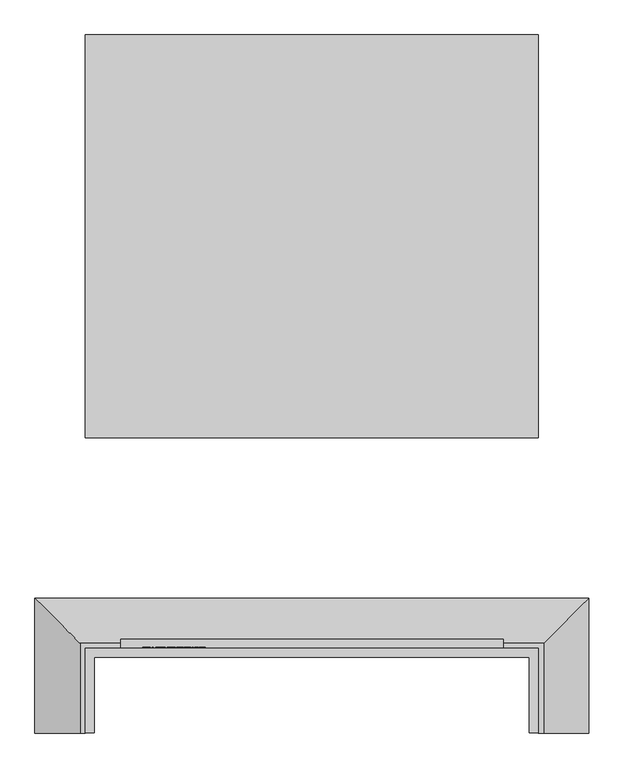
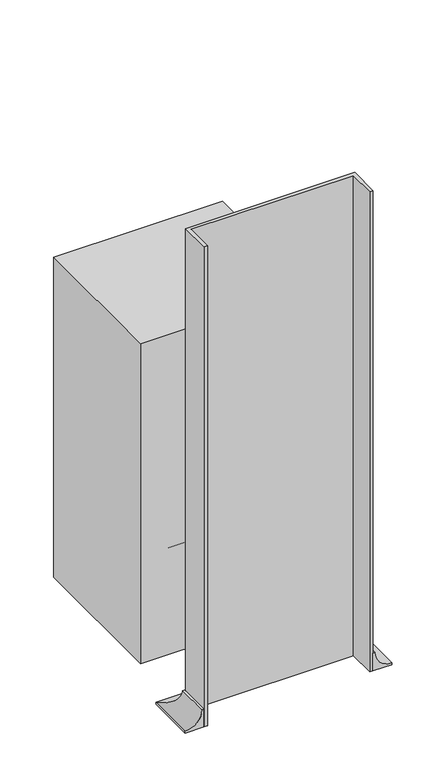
"""IFC4 building model written with IfcOpenShell, lengths in millimetres: furniture geometry, BIMHealth-Washstation-LOD2A-v1 : BIMHealth-Washstation-LOD2A-v1."""

import ifcopenshell
import ifcopenshell.guid

model = None  # the IFC model being written
_history = None  # IfcOwnerHistory: only IFC2X3 demands one
_inside = {}  # id of a spatial element -> (the spatial element, [elements in it])
_under = {}  # id of a project, library or spatial element -> (it, [spatial elements below it])
_declared = {}  # id of a project -> (the project, [libraries it declares])
_typed = {}  # id of a type object -> (the type object, [elements of that type])
_made_of = {}  # id of a material, layer set ... -> (it, [elements and type objects made of it])


def new_model(schema):
    """Start an empty IFC model of exactly this schema.

    Asked for "IFC4X3", IfcOpenShell would pick the latest addendum, in which some entities
    have other attributes; the version numbers below select the first issue.
    IFC2X3 requires an IfcOwnerHistory on every rooted entity: one is made here for all.
    """
    global model, _history
    if schema == "IFC4X3":
        model = ifcopenshell.file(schema_version=(4, 3, 0, 0))
    else:
        model = ifcopenshell.file(schema=schema)
    _inside.clear()
    _under.clear()
    _declared.clear()
    _typed.clear()
    _made_of.clear()
    _history = None
    if model.schema == "IFC2X3":
        org = make("IfcOrganization", Name="unknown")
        user = make(
            "IfcPersonAndOrganization",
            ThePerson=make("IfcPerson", FamilyName="unknown"),
            TheOrganization=org,
        )
        app = make(
            "IfcApplication",
            ApplicationDeveloper=org,
            Version="unknown",
            ApplicationFullName="unknown",
            ApplicationIdentifier="unknown",
        )
        _history = make(
            "IfcOwnerHistory",
            OwningUser=user,
            OwningApplication=app,
            ChangeAction="ADDED",
            CreationDate=0,
        )
    return model


def make(cls, **values):
    """One entity of the class cls with the attributes given. An attribute that is None is left unset."""
    return model.create_entity(
        cls, **{name: value for name, value in values.items() if value is not None}
    )


def rooted(cls, **values):
    """An entity with a GlobalId (a new one), such as an element, a storey or a relation."""
    return make(cls, GlobalId=ifcopenshell.guid.new(), OwnerHistory=_history, **values)


def si_unit(unit_type, name, prefix=None):
    """IfcSIUnit, for example si_unit("LENGTHUNIT", "METRE", prefix="MILLI")."""
    return make("IfcSIUnit", UnitType=unit_type, Prefix=prefix, Name=name)


def assignment(units):
    """IfcUnitAssignment: the units of a project."""
    return None if units is None else make("IfcUnitAssignment", Units=units)


def point(xyz):
    """IfcCartesianPoint."""
    return None if xyz is None else make("IfcCartesianPoint", Coordinates=xyz)


def direction(xyz):
    """IfcDirection."""
    return None if xyz is None else make("IfcDirection", DirectionRatios=xyz)


def frame(location, z_axis=None, x_axis=None):
    """IfcAxis2Placement3D, a coordinate frame: its origin and axes. An axis left out is left unset."""
    return make(
        "IfcAxis2Placement3D",
        Location=point(location),
        Axis=direction(z_axis),
        RefDirection=direction(x_axis),
    )


def origin():
    """The frame at (0, 0, 0) with its axes left unset."""
    return frame((0.0, 0.0, 0.0))


def origin_with_axes():
    """The frame at (0, 0, 0) with the z axis (0, 0, 1) and the x axis (1, 0, 0) written out."""
    return frame((0.0, 0.0, 0.0), z_axis=(0.0, 0.0, 1.0), x_axis=(1.0, 0.0, 0.0))


def place(relative_to, where):
    """IfcLocalPlacement: puts the frame where relative to a parent placement (None: the world)."""
    return make(
        "IfcLocalPlacement", PlacementRelTo=relative_to, RelativePlacement=where
    )


def context(
    kind, dimensions, precision=None, world=None, true_north=None, identifier=None
):
    """IfcGeometricRepresentationContext, for example the 3D "Model" context."""
    return make(
        "IfcGeometricRepresentationContext",
        ContextIdentifier=identifier,
        ContextType=kind,
        CoordinateSpaceDimension=dimensions,
        Precision=precision,
        WorldCoordinateSystem=world,
        TrueNorth=true_north,
    )


def project(units=None, contexts=None):
    """IfcProject with its units and contexts."""
    return rooted(
        "IfcProject",
        Name="project",
        RepresentationContexts=contexts,
        UnitsInContext=assignment(units),
    )


def spatial(cls, under=None, at=None, **own):
    """A site, building, storey or space (cls), placed at a placement, below another one or the project."""
    s = rooted(cls, ObjectPlacement=at, **own)
    if under is not None:
        _under.setdefault(under.id(), (under, []))[1].append(s)
    return s


def polyline(points):
    """IfcPolyline through the points."""
    return make("IfcPolyline", Points=[point(p) for p in points])


def circle_curve(where, radius):
    """IfcCircle in the frame where."""
    return make("IfcCircle", Position=where, Radius=radius)


def ellipse_curve(where, semi_axis1, semi_axis2):
    """IfcEllipse in the frame where."""
    return make(
        "IfcEllipse", Position=where, SemiAxis1=semi_axis1, SemiAxis2=semi_axis2
    )


def outline(outer, holes=None, kind="AREA"):
    """IfcArbitraryClosedProfileDef: a profile drawn as a closed curve; with holes, ...WithVoids."""
    if holes is None:
        return make("IfcArbitraryClosedProfileDef", ProfileType=kind, OuterCurve=outer)
    return make(
        "IfcArbitraryProfileDefWithVoids",
        ProfileType=kind,
        OuterCurve=outer,
        InnerCurves=holes,
    )


def extrude(swept, where, along, depth):
    """IfcExtrudedAreaSolid: the profile swept, set in the frame where, extruded along a direction by depth."""
    return make(
        "IfcExtrudedAreaSolid",
        SweptArea=swept,
        Position=where,
        ExtrudedDirection=direction(along),
        Depth=depth,
    )


def shape(context_of_items, identifier, shape_type, items):
    """IfcShapeRepresentation: the items that make up one representation, for example the "Body"."""
    return make(
        "IfcShapeRepresentation",
        ContextOfItems=context_of_items,
        RepresentationIdentifier=identifier,
        RepresentationType=shape_type,
        Items=items,
    )


def source(mapping_origin, context_of_items, identifier, shape_type, items):
    """IfcRepresentationMap: a shape defined once, which mapped items show again and again."""
    return make(
        "IfcRepresentationMap",
        MappingOrigin=mapping_origin,
        MappedRepresentation=shape(context_of_items, identifier, shape_type, items),
    )


def transform(
    local_origin,
    x_axis=None,
    y_axis=None,
    z_axis=None,
    scale=None,
    scale2=None,
    scale3=None,
    uniform=True,
):
    """IfcCartesianTransformationOperator3D, or its non-uniform kind. x_axis, y_axis, z_axis: its Axis1, 2, 3."""
    if uniform:
        return make(
            "IfcCartesianTransformationOperator3D",
            Axis1=direction(x_axis),
            Axis2=direction(y_axis),
            LocalOrigin=point(local_origin),
            Scale=scale,
            Axis3=direction(z_axis),
        )
    return make(
        "IfcCartesianTransformationOperator3DnonUniform",
        Axis1=direction(x_axis),
        Axis2=direction(y_axis),
        LocalOrigin=point(local_origin),
        Scale=scale,
        Axis3=direction(z_axis),
        Scale2=scale2,
        Scale3=scale3,
    )


def mapped(mapping_source, mapping_target):
    """IfcMappedItem: shows the shape of a source again, moved by a transform."""
    return make(
        "IfcMappedItem", MappingSource=mapping_source, MappingTarget=mapping_target
    )


def made_of(thing, what):
    """Note that an element or type object is made of a material, layer set ...; save() writes the relation."""
    if what is not None:
        _made_of.setdefault(what.id(), (what, []))[1].append(thing)
    return thing


def element(
    cls,
    number,
    at=None,
    inside=None,
    cuts=None,
    type_object=None,
    material=None,
    context=None,
    identifier="Body",
    shape_type=None,
    held_by="IfcProductDefinitionShape",
    body=None,
    shapes=None,
    **own,
):
    """One element of the class cls, such as IfcWall. Its Tag is "e" and its number.

    at: its placement. inside: the storey or other place that contains it. cuts: it is an
    opening in that element (IfcRelVoidsElement). A single representation is given by context,
    identifier, shape_type and body (its items); several are given by shapes. held_by: the class
    of the entity that holds the representations. save() writes the other relations.
    """
    e = rooted(cls, Tag="e%d" % number, ObjectPlacement=at, **own)
    if body is not None:
        shapes = [shape(context, identifier, shape_type, body)]
    if shapes is not None:
        e.Representation = make(held_by, Representations=shapes)
    if inside is not None:
        _inside.setdefault(inside.id(), (inside, []))[1].append(e)
    if cuts is not None:
        rooted(
            "IfcRelVoidsElement", RelatingBuildingElement=cuts, RelatedOpeningElement=e
        )
    if type_object is not None:
        _typed.setdefault(type_object.id(), (type_object, []))[1].append(e)
    return made_of(e, material)


def aggregate(whole, parts):
    """IfcRelAggregates: a whole, such as a stair, and the parts it consists of."""
    return rooted("IfcRelAggregates", RelatingObject=whole, RelatedObjects=parts)


def save(model, path):
    """Write the relations noted so far, then the file.

    IfcRelAggregates (storeys below a building ...), IfcRelContainedInSpatialStructure (elements
    in a storey), IfcRelDefinesByType, IfcRelAssociatesMaterial and IfcRelDeclares: one each for
    every whole, place, type object, material and project.
    """
    for whole, parts in _under.values():
        aggregate(whole, parts)
    for where, things in _inside.values():
        rooted(
            "IfcRelContainedInSpatialStructure",
            RelatedElements=things,
            RelatingStructure=where,
        )
    for kind, things in _typed.values():
        rooted("IfcRelDefinesByType", RelatedObjects=things, RelatingType=kind)
    for what, things in _made_of.values():
        rooted("IfcRelAssociatesMaterial", RelatedObjects=things, RelatingMaterial=what)
    for by, libraries in _declared.values():
        rooted("IfcRelDeclares", RelatingContext=by, RelatedDefinitions=libraries)
    model.write(path)


def plane_surface(at):
    """IfcPlane: the flat surface through the origin of the frame at, square to its z axis."""
    return make("IfcPlane", Position=at)


def revolved_surface(curve, axis_point, axis_direction):
    """IfcSurfaceOfRevolution: the curve turned about the line through axis_point along axis_direction."""
    return make(
        "IfcSurfaceOfRevolution",
        SweptCurve=make("IfcArbitraryOpenProfileDef", ProfileType="CURVE", Curve=curve),
        AxisPosition=make("IfcAxis1Placement", Location=point(axis_point), Axis=direction(axis_direction)),
    )


def advanced_brep(points, edges, surfaces, faces):
    """IfcAdvancedBrep: a solid bounded by faces that lie on surfaces and meet in shared edges.

    An edge is (start, end): straight between two places in points (the first is 0);
    or (start, end, curve); or (start, end, curve, False) where it runs against its curve.
    A face is (place in surfaces, loops), or (place, loops, False) where it looks against
    its surface's normal. A loop lists edges by number (the first is 1), with a minus sign
    where the edge is run from its end to its start. The first loop is the outer one.
    """
    corners = [point(p) for p in points]
    vertices = [make("IfcVertexPoint", VertexGeometry=c) for c in corners]
    made = []
    for start, end, *more in edges:
        made.append(
            make(
                "IfcEdgeCurve",
                EdgeStart=vertices[start],
                EdgeEnd=vertices[end],
                EdgeGeometry=more[0] if more else make("IfcPolyline", Points=[corners[start], corners[end]]),
                SameSense=more[1] if len(more) > 1 else True,
            )
        )
    hull = []
    for where, loops, *sense in faces:
        bounds = []
        for j, loop in enumerate(loops):
            ring = [make("IfcOrientedEdge", EdgeElement=made[abs(k) - 1], Orientation=k > 0) for k in loop]
            bounds.append(
                make(
                    "IfcFaceOuterBound" if j == 0 else "IfcFaceBound",
                    Bound=make("IfcEdgeLoop", EdgeList=ring),
                    Orientation=True,
                )
            )
        hull.append(make("IfcAdvancedFace", Bounds=bounds, FaceSurface=surfaces[where], SameSense=sense[0] if sense else True))
    return make("IfcAdvancedBrep", Outer=make("IfcClosedShell", CfsFaces=hull))


def furniture_92968415(model_context):
    return source(origin(), model_context, "Body", "SolidModel", [
        advanced_brep(
        [(-900.0, 0.0, 100.0), (-910.0, 0.0, 100.0), (-1000.0, 0.0, 10.0), (-1000.0, 0.0, 0.0), (-900.0, 0.0, 0.0), (-900.0, 168.0, 0.0), (-900.0, 168.0, 100.0), (-1000.0, 268.0, 0.0), (100.0, 268.0, 0.0), (100.0, 0.0, 0.0), (0.0, 0.0, 0.0), (0.0, 168.0, 0.0), (-1000.0, 268.0, 10.0), (-910.0, 178.0, 100.0), (0.0, 168.0, 100.0), (0.0, 0.0, 100.0), (10.0, 0.0, 100.0), (10.0, 178.0, 100.0), (100.0, 268.0, 10.0), (100.0, 0.0, 10.0)],
        [
            (0, 1),
            (1, 2, circle_curve(frame((-1000.0, 0.0, 100.0), z_axis=(0.0, 1.0, 0.0), x_axis=(-1.0, 0.0, 0.0)), 90.0)),
            (2, 3),
            (3, 4),
            (4, 0),
            (4, 5),
            (5, 6),
            (6, 0),
            (3, 7),
            (7, 8),
            (8, 9),
            (9, 10),
            (10, 11),
            (11, 5),
            (2, 12),
            (12, 7),
            (1, 13),
            (13, 12, ellipse_curve(frame((-1000.0, 268.0, 100.0), z_axis=(0.7071067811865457, 0.7071067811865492, 0.0), x_axis=(-0.7071067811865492, 0.7071067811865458, 0.0)), 127.2792206, 90.0)),
            (6, 14),
            (14, 15),
            (15, 16),
            (16, 17),
            (17, 13),
            (11, 14),
            (12, 18),
            (18, 8),
            (17, 18, ellipse_curve(frame((100.0, 268.0, 100.0), z_axis=(0.7071067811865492, -0.7071067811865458, 0.0), x_axis=(0.7071067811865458, 0.7071067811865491, 0.0)), 127.2792206, 90.0)),
            (15, 10),
            (9, 19),
            (19, 16, circle_curve(frame((100.0, 0.0, 100.0), z_axis=(0.0, 1.0, 0.0), x_axis=(1.0, 0.0, 0.0)), 90.0)),
            (18, 19),
        ],
        [
            plane_surface(frame((-900.0, 0.0, 0.0), z_axis=(0.0, -1.0, 0.0), x_axis=(0.0, 0.0, 1.0))),
            plane_surface(frame((-900.0, 0.0, 100.0), z_axis=(1.0, 0.0, 0.0), x_axis=(0.0, 1.0, 0.0))),
            plane_surface(frame((-900.0, 0.0, 0.0), z_axis=(0.0, 0.0, -1.0), x_axis=(0.0, 1.0, 0.0))),
            plane_surface(frame((-1000.0, 0.0, 0.0), z_axis=(-1.0, 0.0, 0.0), x_axis=(0.0, 1.0, 0.0))),
            revolved_surface(polyline([(-1090.0, 357.9999999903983, 100.0), (-1090.0, 0.0, 100.0)]), (-1000.0, 0.0, 100.0), (0.0, 1.0, 0.0)),
            plane_surface(frame((-910.0, 0.0, 100.0), z_axis=(0.0, 0.0, 1.0), x_axis=(0.0, 1.0, 0.0))),
            plane_surface(frame((-900.0, 168.0, 100.0), z_axis=(0.0, -1.0, 0.0), x_axis=(1.0, 0.0, 0.0))),
            plane_surface(frame((-1000.0, 268.0, 0.0), z_axis=(0.0, 1.0, 0.0), x_axis=(1.0, 0.0, 0.0))),
            revolved_surface(polyline([(189.99999999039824, 358.0, 100.0), (-1089.9999999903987, 358.0, 100.0)]), (-900.0, 268.0, 100.0), (1.0, 0.0, 0.0)),
            plane_surface(frame((0.0, 0.0, 0.0), z_axis=(0.0, -1.0, 0.0), x_axis=(0.0, 0.0, 1.0))),
            plane_surface(frame((0.0, 168.0, 100.0), z_axis=(-1.0, 0.0, 0.0), x_axis=(0.0, -1.0, 0.0))),
            plane_surface(frame((100.0, 268.0, 0.0), z_axis=(1.0, 0.0, 0.0), x_axis=(0.0, -1.0, 0.0))),
            revolved_surface(polyline([(190.0, 0.0, 100.0), (190.0, 357.9999999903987, 100.0)]), (100.0, 168.0, 100.0), (0.0, -1.0, 0.0)),
        ],
        [
            (0, [[1, 2, 3, 4, 5]]),
            (1, [[6, 7, 8, -5]]),
            (2, [[9, 10, 11, 12, 13, 14, -6, -4]]),
            (3, [[15, 16, -9, -3]]),
            (4, [[17, 18, -15, -2]]),
            (5, [[-8, 19, 20, 21, 22, 23, -17, -1]]),
            (6, [[-14, 24, -19, -7]]),
            (7, [[25, 26, -10, -16]]),
            (8, [[-23, 27, -25, -18]]),
            (9, [[28, -12, 29, 30, -21]]),
            (10, [[-13, -28, -20, -24]]),
            (11, [[31, -29, -11, -26]]),
            (12, [[-22, -30, -31, -27]]),
        ],
    ),
        extrude(outline(polyline([(2373.0972535, -785.4733843), (2373.0972535, -778.0166535), (2373.4361958, -774.8604035), (2374.4361958, -772.7185766), (2376.3208112, -771.2834804), (2378.9674458, -770.7041535), (2382.0299458, -771.5527112), (2383.8664843, -773.978192), (2385.6092727, -771.9805958), (2387.9097535, -771.3195381), (2390.4289843, -772.1055958), (2392.2102343, -774.2786728), (2392.7895612, -777.9589612), (2392.7895612, -785.4733843), (2373.0972535, -785.4733843)]), holes=[polyline([(2384.7895612, -783.0118458), (2390.3280227, -783.0118458), (2390.3280227, -778.8579997), (2390.0708112, -775.6945381), (2389.121292, -774.2762689), (2387.5155227, -773.7810766), (2385.9121574, -774.3123266), (2385.0010997, -775.8916535), (2384.7895612, -778.5166535), (2384.7895612, -783.0118458)]), polyline([(2375.558792, -783.0118458), (2382.3280227, -783.0118458), (2382.3280227, -778.2041535), (2381.9986958, -775.1632881), (2380.8568689, -773.6368458), (2378.9434074, -773.165692), (2376.1910035, -774.5911728), (2375.6549458, -776.1368458), (2375.558792, -777.9637689), (2375.558792, -783.0118458)])]), frame((0.0, 168.0, 0.0), z_axis=(0.0, 1.0, 0.0), x_axis=(0.0, 0.0, 1.0)), (0.0, 0.0, 1.0), 2.0),
        extrude(outline(polyline([(-764.5503074, 170.0), (-764.5503074, 168.0), (-767.0118458, 168.0), (-767.0118458, 170.0), (-764.5503074, 170.0)])), frame((0.0, 0.0, 2373.0972535), z_axis=(0.0, 0.0, 1.0), x_axis=(1.0, 0.0, 0.0)), (0.0, 0.0, 1.0), 19.6923077),
        extrude(outline(polyline([(2373.0972535, -759.6272304), (2373.0972535, -757.165692), (2390.3280227, -757.165692), (2373.0972535, -752.2137689), (2373.0972535, -748.8820381), (2390.3280227, -743.9349228), (2373.0972535, -743.9349228), (2373.0972535, -741.4733843), (2392.7895612, -741.4733843), (2392.7895612, -745.7089612), (2379.1501381, -749.6704997), (2376.0107151, -750.5503074), (2378.9097535, -751.3676151), (2392.7895612, -755.4060766), (2392.7895612, -759.6272304), (2373.0972535, -759.6272304)])), frame((0.0, 168.0, 0.0), z_axis=(0.0, 1.0, 0.0), x_axis=(0.0, 0.0, 1.0)), (0.0, 0.0, 1.0), 2.0),
        extrude(outline(polyline([(2373.0972535, -737.165692), (2373.0972535, -734.7041535), (2382.3280227, -734.7041535), (2382.3280227, -724.2426151), (2373.0972535, -724.2426151), (2373.0972535, -721.7810766), (2392.7895612, -721.7810766), (2392.7895612, -724.2426151), (2384.7895612, -724.2426151), (2384.7895612, -734.7041535), (2392.7895612, -734.7041535), (2392.7895612, -737.165692), (2373.0972535, -737.165692)])), frame((0.0, 168.0, 0.0), z_axis=(0.0, 1.0, 0.0), x_axis=(0.0, 0.0, 1.0)), (0.0, 0.0, 1.0), 2.0),
        extrude(outline(polyline([(2377.4049458, -707.6560766), (2375.7655227, -709.2426151), (2375.2510997, -711.6560766), (2376.3616766, -714.8267497), (2379.558792, -716.2426151), (2380.2222535, -705.165692), (2385.8616766, -707.0334804), (2387.8664843, -711.8435766), (2385.8568689, -716.7954997), (2380.2078304, -718.7041535), (2374.7390804, -716.8147304), (2372.7895612, -711.7041535), (2373.9193689, -707.4998266), (2377.0972535, -705.2426151), (2377.4049458, -707.6560766)]), holes=[polyline([(2382.0203304, -716.2426151), (2384.4842727, -714.884442), (2385.4049458, -711.853192), (2384.2510997, -708.6128074), (2382.0203304, -707.6272304), (2382.0203304, -716.2426151)])]), frame((0.0, 168.0, 0.0), z_axis=(0.0, 1.0, 0.0), x_axis=(0.0, 0.0, 1.0)), (0.0, 0.0, 1.0), 2.0),
        extrude(outline(polyline([(2374.9434074, -693.4733843), (2373.0972535, -692.8579997), (2373.0972535, -690.3964612), (2375.1669651, -690.8868458), (2379.4434074, -691.0118458), (2382.5059074, -691.0118458), (2384.6597535, -691.1320381), (2386.3304266, -691.8868458), (2387.4289843, -693.571942), (2387.8664843, -696.5551151), (2387.371292, -699.8027112), (2385.9626381, -701.946942), (2383.558792, -703.0118458), (2383.2510997, -700.5503074), (2384.9313881, -699.3628074), (2385.4049458, -696.8724228), (2384.6934074, -694.1512689), (2382.3280227, -693.4878074), (2381.4818689, -697.7570381), (2381.1116766, -699.8868458), (2380.3039843, -701.6104035), (2378.8905227, -702.8483843), (2376.9434074, -703.3195381), (2373.9578304, -702.071942), (2372.7895612, -698.4974228), (2373.2751381, -695.8604035), (2374.9434074, -693.4733843)]), holes=[polyline([(2379.5179266, -693.4805958), (2377.2655227, -693.8772304), (2375.840042, -695.4829997), (2375.2510997, -697.9733843), (2378.7126381, -699.5623266), (2379.1116766, -697.4445381), (2379.5179266, -693.4805958)])]), frame((0.0, 168.0, 0.0), z_axis=(0.0, 1.0, 0.0), x_axis=(0.0, 0.0, 1.0)), (0.0, 0.0, 1.0), 2.0),
        extrude(outline(polyline([(-685.165692, 170.0), (-685.165692, 168.0), (-687.6272304, 168.0), (-687.6272304, 170.0), (-685.165692, 170.0)])), frame((0.0, 0.0, 2373.0972535), z_axis=(0.0, 0.0, 1.0), x_axis=(1.0, 0.0, 0.0)), (0.0, 0.0, 1.0), 19.6923077),
        extrude(outline(polyline([(2376.1429266, -677.4733843), (2385.0972535, -678.7041535), (2385.0972535, -676.2426151), (2387.558792, -676.2426151), (2387.558792, -678.7041535), (2392.5203304, -678.7041535), (2391.0732151, -681.165692), (2387.558792, -681.165692), (2387.558792, -683.0118458), (2385.0972535, -683.0118458), (2385.0972535, -681.165692), (2377.0635997, -681.165692), (2373.1982151, -679.8387689), (2372.7895612, -677.7762689), (2373.0251381, -675.9349228), (2376.1429266, -677.4733843)])), frame((0.0, 168.0, 0.0), z_axis=(0.0, 1.0, 0.0), x_axis=(0.0, 0.0, 1.0)), (0.0, 0.0, 1.0), 2.0),
        extrude(outline(polyline([(2373.0972535, -673.7810766), (2373.0972535, -671.3195381), (2380.7799458, -671.3195381), (2383.371292, -670.9180958), (2384.8568689, -669.571942), (2385.4049458, -667.5551151), (2384.5924458, -665.3339612), (2381.996292, -664.5503074), (2373.0972535, -664.5503074), (2373.0972535, -662.0887689), (2382.2510997, -662.0887689), (2385.4866766, -662.5935766), (2387.2342727, -664.2714612), (2387.8664843, -667.0358843), (2385.5491766, -671.3195381), (2392.7895612, -671.3195381), (2392.7895612, -673.7810766), (2373.0972535, -673.7810766)])), frame((0.0, 168.0, 0.0), z_axis=(0.0, 1.0, 0.0), x_axis=(0.0, 0.0, 1.0)), (0.0, 0.0, 1.0), 2.0),
        extrude(outline(polyline([(-70.0, 168.0), (-830.0, 168.0), (-830.0, 186.0), (-70.0, 186.0), (-70.0, 168.0)])), frame((0.0, 0.0, 1850.0), z_axis=(0.0, 0.0, 1.0), x_axis=(1.0, 0.0, 0.0)), (0.0, 0.0, 1.0), 400.0),
        extrude(outline(polyline([(-70.0, 168.0), (-830.0, 168.0), (-830.0, 186.0), (-70.0, 186.0), (-70.0, 168.0)])), frame((0.0, 0.0, 1200.0), z_axis=(0.0, 0.0, 1.0), x_axis=(1.0, 0.0, 0.0)), (0.0, 0.0, 1.0), 650.0),
        extrude(outline(polyline([(-70.0, 168.0), (-830.0, 168.0), (-830.0, 186.0), (-70.0, 186.0), (-70.0, 168.0)])), frame((0.0, 0.0, 550.0), z_axis=(0.0, 0.0, 1.0), x_axis=(1.0, 0.0, 0.0)), (0.0, 0.0, 1.0), 650.0),
        extrude(outline(polyline([(-70.0, 168.0), (-830.0, 168.0), (-830.0, 186.0), (-70.0, 186.0), (-70.0, 168.0)])), frame((0.0, 0.0, 150.0), z_axis=(0.0, 0.0, 1.0), x_axis=(1.0, 0.0, 0.0)), (0.0, 0.0, 1.0), 400.0),
        extrude(outline(polyline([(-900.0, 168.0), (0.0, 168.0), (0.0, 0.0), (-18.0, 0.0), (-18.0, 150.0), (-882.0, 150.0), (-882.0, 0.0), (-900.0, 0.0), (-900.0, 168.0)])), origin_with_axes(), (0.0, 0.0, 1.0), 2700.0),
        extrude(outline(polyline([(0.0, 586.0), (-900.0, 586.0), (-900.0, 1386.0), (0.0, 1386.0), (0.0, 586.0)])), origin_with_axes(), (0.0, 0.0, 1.0), 1800.0),
        extrude(outline(polyline([(-750.0, 1186.0), (-150.0, 1186.0), (-150.0, 586.0), (-750.0, 586.0), (-750.0, 1186.0)])), origin_with_axes(), (0.0, 0.0, 1.0), 600.0),
    ])


if __name__ == "__main__":
    model = new_model("IFC4")
    model_context = context("Model", 3, world=origin())
    ifc_project = project(units=[si_unit("LENGTHUNIT", "METRE", prefix="MILLI")], contexts=[model_context])
    site = spatial("IfcSite", under=ifc_project)
    building = spatial("IfcBuilding", under=site)
    placement = place(None, origin())
    furniture_shape = furniture_92968415(model_context)
    element("IfcFurniture", 1, ObjectType="BIMHealth-Washstation-LOD2A-v1 : BIMHealth-Washstation-LOD2A-v1", at=placement, inside=building, context=model_context, shape_type="MappedRepresentation", body=[
        mapped(furniture_shape, transform((0.0, 0.0, 0.0), x_axis=(1.0, 0.0, 0.0), y_axis=(0.0, 1.0, 0.0), z_axis=(0.0, 0.0, 1.0))),
    ])
    save(model, "model.ifc")
